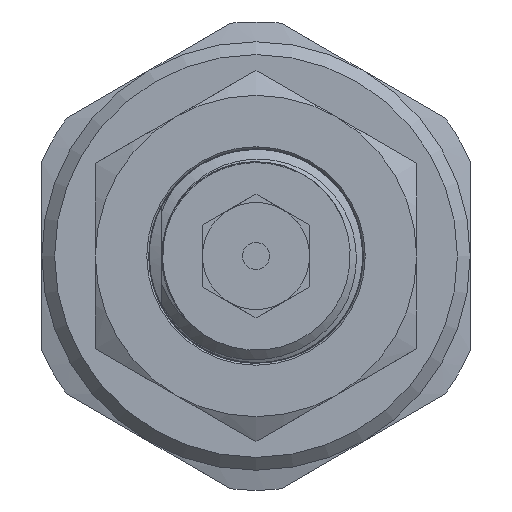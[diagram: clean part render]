
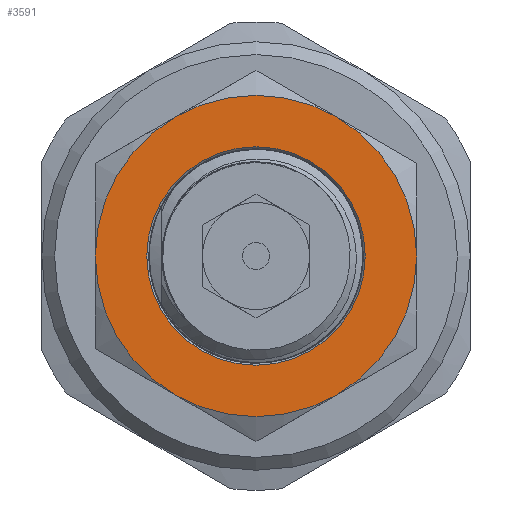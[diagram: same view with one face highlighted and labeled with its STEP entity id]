
A CAD part, left-side view. The second image highlights one B-rep face of the part: STEP entity #3591.
In plain terms, the highlighted planar face has unit normal (-1, 0, 0).
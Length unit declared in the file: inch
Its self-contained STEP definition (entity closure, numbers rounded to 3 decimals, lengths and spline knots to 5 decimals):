
#162=FACE_BOUND('',#529,.T.);
#199=PLANE('',#3845);
#331=FACE_OUTER_BOUND('',#528,.T.);
#528=EDGE_LOOP('',(#2908,#2909,#2910,#2911,#2912,#2913));
#529=EDGE_LOOP('',(#2914,#2915));
#673=CIRCLE('',#3846,0.375);
#674=CIRCLE('',#3847,0.375);
#675=CIRCLE('',#3848,0.375);
#676=CIRCLE('',#3849,0.375);
#677=CIRCLE('',#3850,0.375);
#678=CIRCLE('',#3851,0.375);
#679=CIRCLE('',#3852,0.255);
#680=CIRCLE('',#3853,0.255);
#1510=VERTEX_POINT('',#10588);
#1511=VERTEX_POINT('',#10589);
#1512=VERTEX_POINT('',#10591);
#1513=VERTEX_POINT('',#10593);
#1514=VERTEX_POINT('',#10595);
#1515=VERTEX_POINT('',#10597);
#1516=VERTEX_POINT('',#10600);
#1517=VERTEX_POINT('',#10601);
#2004=EDGE_CURVE('',#1510,#1511,#673,.T.);
#2005=EDGE_CURVE('',#1511,#1512,#674,.T.);
#2006=EDGE_CURVE('',#1512,#1513,#675,.T.);
#2007=EDGE_CURVE('',#1513,#1514,#676,.T.);
#2008=EDGE_CURVE('',#1514,#1515,#677,.T.);
#2009=EDGE_CURVE('',#1515,#1510,#678,.T.);
#2010=EDGE_CURVE('',#1516,#1517,#679,.T.);
#2011=EDGE_CURVE('',#1517,#1516,#680,.T.);
#2908=ORIENTED_EDGE('',*,*,#2004,.T.);
#2909=ORIENTED_EDGE('',*,*,#2005,.T.);
#2910=ORIENTED_EDGE('',*,*,#2006,.T.);
#2911=ORIENTED_EDGE('',*,*,#2007,.T.);
#2912=ORIENTED_EDGE('',*,*,#2008,.T.);
#2913=ORIENTED_EDGE('',*,*,#2009,.T.);
#2914=ORIENTED_EDGE('',*,*,#2010,.T.);
#2915=ORIENTED_EDGE('',*,*,#2011,.T.);
#3591=ADVANCED_FACE('',(#331,#162),#199,.F.);
#3845=AXIS2_PLACEMENT_3D('',#10587,#4368,#4369);
#3846=AXIS2_PLACEMENT_3D('',#10590,#4370,#4371);
#3847=AXIS2_PLACEMENT_3D('',#10592,#4372,#4373);
#3848=AXIS2_PLACEMENT_3D('',#10594,#4374,#4375);
#3849=AXIS2_PLACEMENT_3D('',#10596,#4376,#4377);
#3850=AXIS2_PLACEMENT_3D('',#10598,#4378,#4379);
#3851=AXIS2_PLACEMENT_3D('',#10599,#4380,#4381);
#3852=AXIS2_PLACEMENT_3D('',#10602,#4382,#4383);
#3853=AXIS2_PLACEMENT_3D('',#10603,#4384,#4385);
#4368=DIRECTION('center_axis',(1.,0.,0.));
#4369=DIRECTION('ref_axis',(0.,-0.5,0.866));
#4370=DIRECTION('center_axis',(-1.,0.,0.));
#4371=DIRECTION('ref_axis',(0.,-0.866,-0.5));
#4372=DIRECTION('center_axis',(-1.,0.,0.));
#4373=DIRECTION('ref_axis',(0.,-0.866,-0.5));
#4374=DIRECTION('center_axis',(-1.,0.,0.));
#4375=DIRECTION('ref_axis',(0.,-0.866,-0.5));
#4376=DIRECTION('center_axis',(-1.,0.,0.));
#4377=DIRECTION('ref_axis',(0.,-0.866,-0.5));
#4378=DIRECTION('center_axis',(-1.,0.,0.));
#4379=DIRECTION('ref_axis',(0.,-0.866,-0.5));
#4380=DIRECTION('center_axis',(-1.,0.,0.));
#4381=DIRECTION('ref_axis',(0.,-0.866,-0.5));
#4382=DIRECTION('center_axis',(1.,0.,0.));
#4383=DIRECTION('ref_axis',(0.,-0.866,-0.5));
#4384=DIRECTION('center_axis',(1.,0.,0.));
#4385=DIRECTION('ref_axis',(0.,-0.866,-0.5));
#10587=CARTESIAN_POINT('Origin',(-0.11751,0.,
0.));
#10588=CARTESIAN_POINT('',(-0.11751,0.1875,-0.32476));
#10589=CARTESIAN_POINT('',(-0.11751,-0.1875,-0.32476));
#10590=CARTESIAN_POINT('Origin',(-0.11751,0.,
0.));
#10591=CARTESIAN_POINT('',(-0.11751,-0.375,0.));
#10592=CARTESIAN_POINT('Origin',(-0.11751,0.,
0.));
#10593=CARTESIAN_POINT('',(-0.11751,-0.1875,0.32476));
#10594=CARTESIAN_POINT('Origin',(-0.11751,0.,
0.));
#10595=CARTESIAN_POINT('',(-0.11751,0.1875,0.32476));
#10596=CARTESIAN_POINT('Origin',(-0.11751,0.,
0.));
#10597=CARTESIAN_POINT('',(-0.11751,0.375,0.));
#10598=CARTESIAN_POINT('Origin',(-0.11751,0.,
0.));
#10599=CARTESIAN_POINT('Origin',(-0.11751,0.,
0.));
#10600=CARTESIAN_POINT('',(-0.11751,-0.22084,-0.1275));
#10601=CARTESIAN_POINT('',(-0.11751,0.22084,0.1275));
#10602=CARTESIAN_POINT('Origin',(-0.11751,0.,
0.));
#10603=CARTESIAN_POINT('Origin',(-0.11751,0.,
0.));
